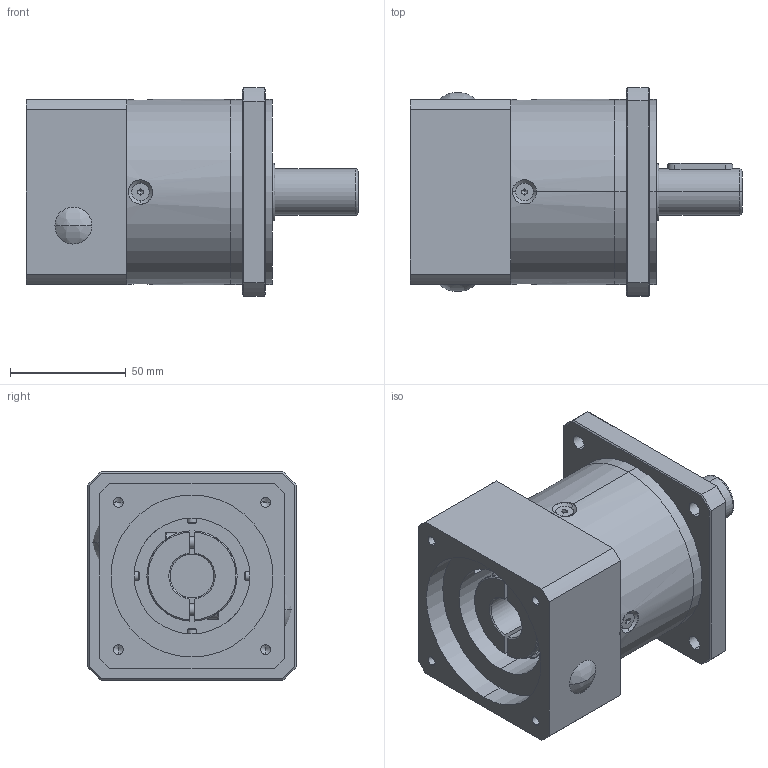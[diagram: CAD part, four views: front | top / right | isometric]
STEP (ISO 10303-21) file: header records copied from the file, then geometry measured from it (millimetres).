
FILE_DESCRIPTION (( 'STEP AP214' ), '1' );
FILE_NAME ('PLF-080-L1-S2-P2 19-70-90-M5.STEP', '2023-08-16T07:56:51', ( '微软用户' ), ( '微软中国' ), 'SwSTEP 2.0', 'SolidWorks 2018', '' );
FILE_SCHEMA (( 'AUTOMOTIVE_DESIGN' ));
Length unit declared in the file: millimetre
Products named in the file (8): PLF-080输入端盖-外形70-M5-90; hexagon socket head cap screws gb_GB_FASTENER_SCREWS_HSHCS M5X16-N; PLF-080-L1-S2-P2 19-70-90-M5; PLF-080黑裔; hexagon socket countersunk head screws gb_GB_FASTENER_SCREWS_HSCHS M4X16-N; PLF-080薊粣ん-俋倛19; PLF-080一级齿圈-外形; PLF-080怀堤傷裔-俋倛
Assembly tree (12 placements, depth 2):
  PLF-080-L1-S2-P2 19-70-90-M5
    PLF-080怀堤傷裔-俋倛
    PLF-080一级齿圈-外形
    PLF-080输入端盖-外形70-M5-90
    PLF-080薊粣ん-俋倛19
    hexagon socket countersunk head screws gb_GB_FASTENER_SCREWS_HSCHS M4X16-N  x4
    PLF-080黑裔  x2
    hexagon socket head cap screws gb_GB_FASTENER_SCREWS_HSHCS M5X16-N  x2
Bounding box: 143.5 x 90 x 90 mm (x, y, z)
Volume: 421932.8 mm3; surface area: 94705.3 mm2
Topology: 13 solids, 13 shells, 379 faces, 898 edges, 543 vertices
Faces by surface type: plane 148, cylinder 130, cone 71, bspline 30
Entity records: 8956 total; most frequent: CARTESIAN_POINT 2647, DIRECTION 1289, ORIENTED_EDGE 1204, EDGE_CURVE 602, AXIS2_PLACEMENT_3D 509, VERTEX_POINT 379, EDGE_LOOP 305, LINE 271
